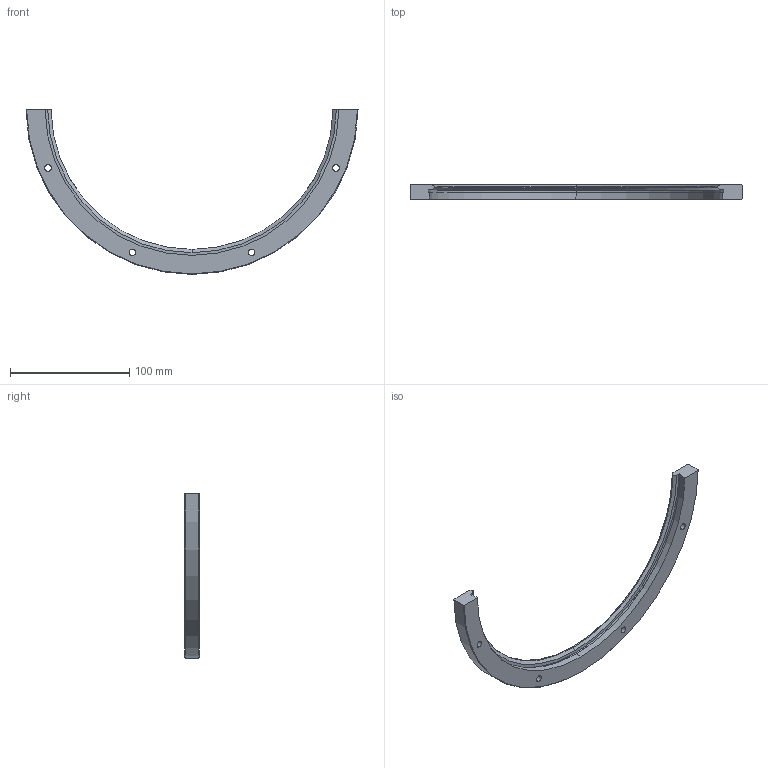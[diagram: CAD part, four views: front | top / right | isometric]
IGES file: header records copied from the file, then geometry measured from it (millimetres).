
Start section: 3D InterOp IGES (v. 2020 1.0.1), Spatial Corp. Copyright (c) 1999-2017.
Global section: file name: ris_278_r180.igs; native system: Spatial Corp.; preprocessor: 3D InterOp ACIS/IGES; author: TraceParts; organization: TraceParts S.A.; date: 20220624.060612; units: millimetre
Bounding box: 277.99 x 12.25 x 138 mm (x, y, z)
Surface area: 27359.1 mm2 (no closed solid volume)
Topology: 0 solids, 0 shells, 44 faces, 218 edges, 218 vertices
Faces by surface type: revolution 34, extrusion 10
